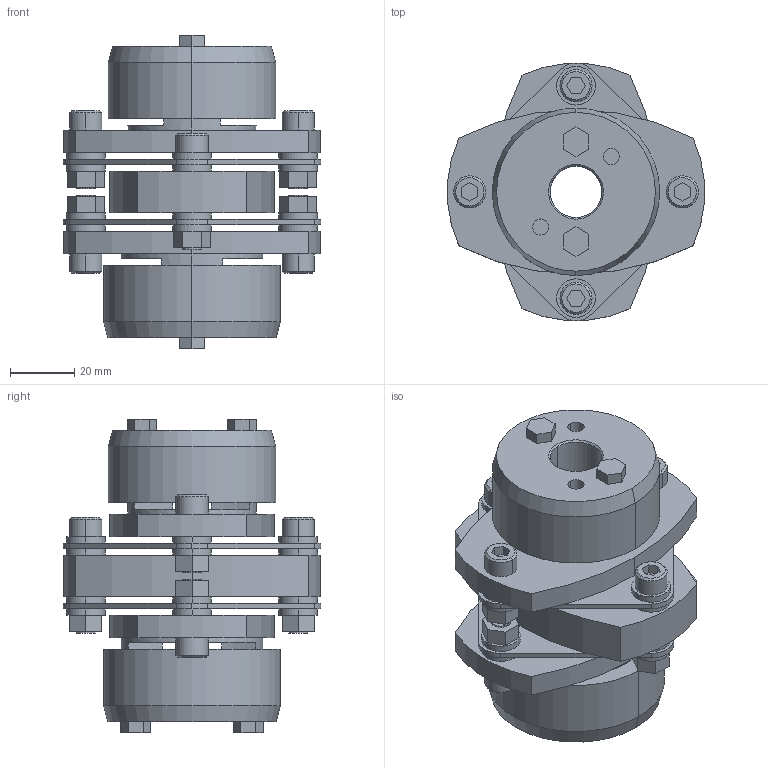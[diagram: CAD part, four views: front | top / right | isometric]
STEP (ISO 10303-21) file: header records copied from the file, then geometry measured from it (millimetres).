
FILE_DESCRIPTION((''),'2;1');
FILE_NAME('LCD-80T7-16×22.stp','2015-10-31T17:21:19',(''),(''),'AutoCAD STEP 2000i','AutoCAD 2000i',', , ');
FILE_SCHEMA(('CONFIG_CONTROL_DESIGN'));
Length unit declared in the file: millimetre
Products named in the file (7): LCD-80T7-17×22; 忣兜1; LC80T7-T022; LC80T7-T019; LC80T7-T017-1; LC80T7-T017; LCD80-ITA
Assembly tree (6 placements, depth 2):
  LCD-80T7-17×22
    忣兜1
    LC80T7-T022
    LC80T7-T019
    LC80T7-T017-1
    LC80T7-T017
    LCD80-ITA
Bounding box: 80 x 79.95 x 97.5 mm (x, y, z)
Volume: 186029 mm3; surface area: 57281 mm2
Topology: 1 solids, 1 shells, 306 faces, 744 edges, 488 vertices
Faces by surface type: plane 162, cylinder 120, cone 24
Entity records: 9247 total; most frequent: DIRECTION 1650, CARTESIAN_POINT 1545, ORIENTED_EDGE 1488, EDGE_CURVE 744, AXIS2_PLACEMENT_3D 593, VERTEX_POINT 488, VECTOR 464, LINE 464
